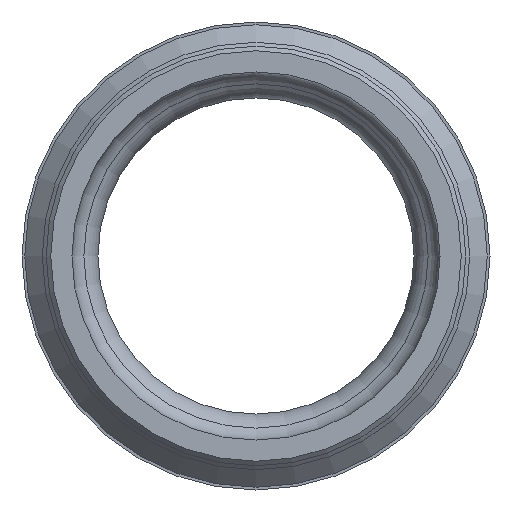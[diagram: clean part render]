
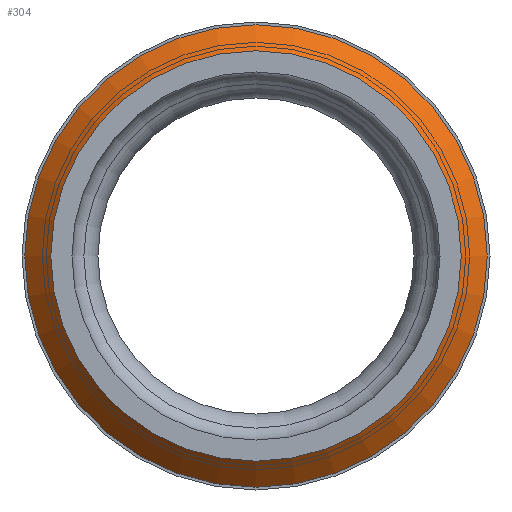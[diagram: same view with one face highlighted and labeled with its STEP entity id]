
A CAD part, front view. The second image highlights one B-rep face of the part: STEP entity #304.
In plain terms, the highlighted conical face has half-angle 45 degrees and reference radius 18.059 mm.
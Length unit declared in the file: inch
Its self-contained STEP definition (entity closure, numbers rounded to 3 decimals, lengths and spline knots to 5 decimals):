
#241=CARTESIAN_POINT('',(0.0,-7.3925,-0.631));
#242=VERTEX_POINT('',#241);
#243=CARTESIAN_POINT('',(0.,-7.3925,0.631));
#244=VERTEX_POINT('',#243);
#245=CARTESIAN_POINT('',(0.0,-7.3925,0.0));
#246=DIRECTION('',(0.0,1.0,0.0));
#247=DIRECTION('',(0.0,0.0,-1.0));
#248=AXIS2_PLACEMENT_3D('',#245,#246,#247);
#249=CIRCLE('',#248,0.631);
#250=EDGE_CURVE('',#242,#244,#249,.T.);
#252=CARTESIAN_POINT('',(0.0,-7.3925,0.0));
#253=DIRECTION('',(0.0,1.0,0.0));
#254=DIRECTION('',(0.0,0.0,-1.0));
#255=AXIS2_PLACEMENT_3D('',#252,#253,#254);
#256=CIRCLE('',#255,0.631);
#257=EDGE_CURVE('',#244,#242,#256,.T.);
#267=CARTESIAN_POINT('',(0.0,-7.3125,-0.711));
#268=VERTEX_POINT('',#267);
#269=CARTESIAN_POINT('',(0.,-7.3125,0.711));
#270=VERTEX_POINT('',#269);
#271=CARTESIAN_POINT('',(0.0,-7.3125,0.0));
#272=DIRECTION('',(0.0,-1.0,0.0));
#273=DIRECTION('',(0.0,0.0,-1.0));
#274=AXIS2_PLACEMENT_3D('',#271,#272,#273);
#275=CIRCLE('',#274,0.711);
#276=EDGE_CURVE('',#268,#270,#275,.T.);
#278=CARTESIAN_POINT('',(0.0,-7.3125,0.0));
#279=DIRECTION('',(0.0,-1.0,0.0));
#280=DIRECTION('',(0.0,0.0,-1.0));
#281=AXIS2_PLACEMENT_3D('',#278,#279,#280);
#282=CIRCLE('',#281,0.711);
#283=EDGE_CURVE('',#270,#268,#282,.T.);
#291=CARTESIAN_POINT('',(0.0,-7.3125,0.0));
#292=DIRECTION('',(0.,1.0,0.));
#293=DIRECTION('',(0.0,0.0,-1.0));
#294=AXIS2_PLACEMENT_3D('',#291,#292,#293);
#295=CONICAL_SURFACE('',#294,0.711,45.);
#296=ORIENTED_EDGE('',*,*,#276,.T.);
#297=ORIENTED_EDGE('',*,*,#283,.T.);
#298=EDGE_LOOP('',(#296,#297));
#299=FACE_OUTER_BOUND('',#298,.T.);
#300=ORIENTED_EDGE('',*,*,#250,.T.);
#301=ORIENTED_EDGE('',*,*,#257,.T.);
#302=EDGE_LOOP('',(#300,#301));
#303=FACE_BOUND('',#302,.T.);
#304=ADVANCED_FACE('',(#299,#303),#295,.T.);
